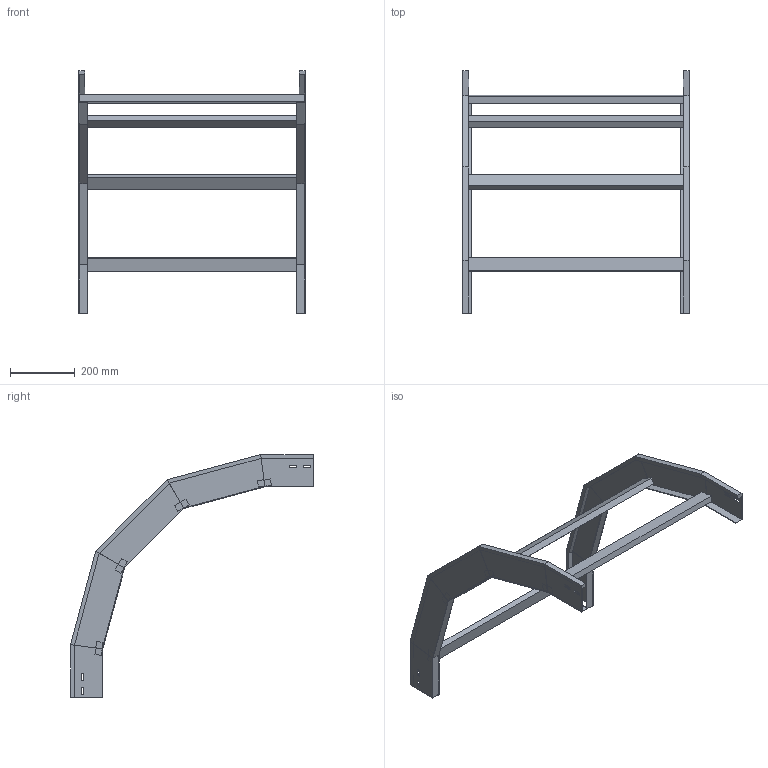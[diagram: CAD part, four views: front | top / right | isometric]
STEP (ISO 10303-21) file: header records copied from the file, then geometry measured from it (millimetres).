
FILE_DESCRIPTION (( 'STEP AP214' ), '1' );
FILE_NAME ('33B5D700.step', '2025-02-21T15:01:31', ( '' ), ( '' ), 'SwSTEP 2.0', 'SolidWorks 2023', '' );
FILE_SCHEMA (( 'AUTOMOTIVE_DESIGN' ));
Length unit declared in the file: millimetre
Products named in the file (3): 33B5D700; LONGH.DISCESA_90°_H100_R500; TRAVERSINO_700
Assembly tree (6 placements, depth 2):
  33B5D700
    LONGH.DISCESA_90°_H100_R500  x2
    TRAVERSINO_700  x4
Bounding box: 700 x 750.35 x 750.35 mm (x, y, z)
Volume: 3294468.1 mm3; surface area: 1002003.4 mm2
Topology: 6 solids, 6 shells, 140 faces, 320 edges, 192 vertices
Faces by surface type: plane 140
Entity records: 1872 total; most frequent: CARTESIAN_POINT 309, ORIENTED_EDGE 296, DIRECTION 294, LINE 148, VECTOR 148, EDGE_CURVE 148, VERTEX_POINT 88, AXIS2_PLACEMENT_3D 73
